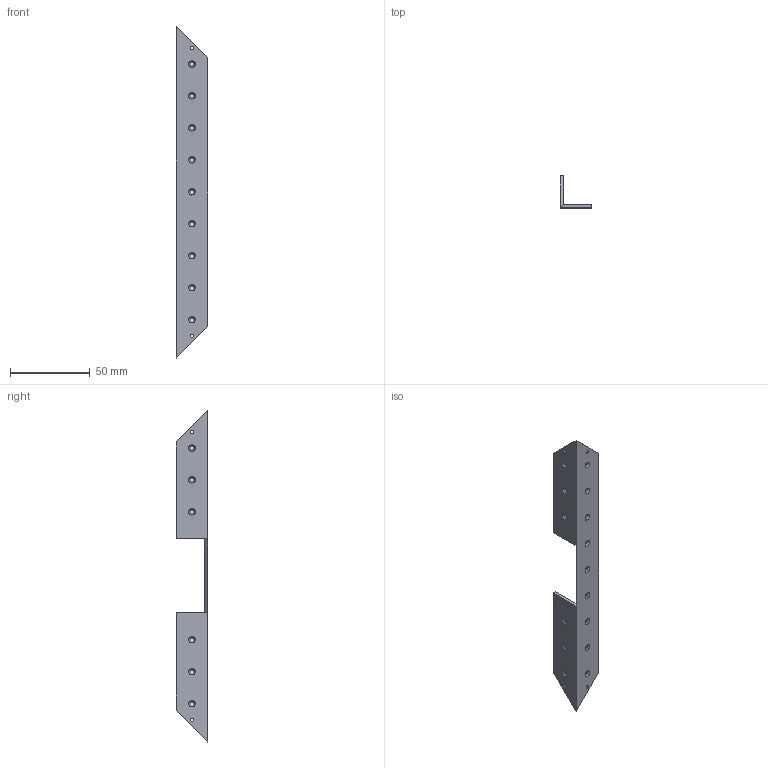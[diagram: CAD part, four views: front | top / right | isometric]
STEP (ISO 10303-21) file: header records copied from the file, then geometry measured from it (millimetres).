
FILE_DESCRIPTION (( 'STEP AP214' ), '1' );
FILE_NAME ('SC67.STEP', '2016-02-27T08:08:12', ( '' ), ( '' ), 'SwSTEP 2.0', 'SolidWorks 2012', '' );
FILE_SCHEMA (( 'AUTOMOTIVE_DESIGN' ));
Length unit declared in the file: millimetre
Products named in the file (1): SC67
Bounding box: 20 x 20 x 207.8 mm (x, y, z)
Volume: 12260.3 mm3; surface area: 13529.3 mm2
Topology: 1 solids, 1 shells, 84 faces, 238 edges, 156 vertices
Faces by surface type: cylinder 38, cone 30, plane 16
Entity records: 2904 total; most frequent: DIRECTION 544, CARTESIAN_POINT 479, ORIENTED_EDGE 476, EDGE_CURVE 238, AXIS2_PLACEMENT_3D 221, VERTEX_POINT 156, CIRCLE 136, EDGE_LOOP 122
